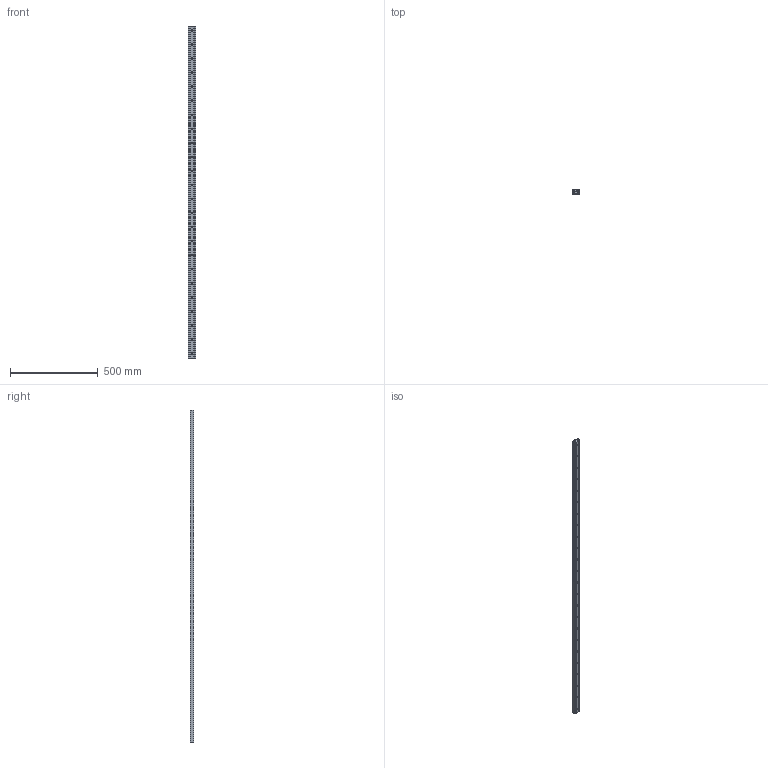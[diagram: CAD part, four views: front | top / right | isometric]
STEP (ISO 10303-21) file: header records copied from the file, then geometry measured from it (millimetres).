
FILE_DESCRIPTION(('STEP AP214'),'1');
FILE_NAME('rail_asn43-1890_00.stp','2017-06-06T10:15:39',('TraceParts'),('TraceParts S.A.'),'Spatial InterOp 3D',' ',' ');
FILE_SCHEMA(('automotive_design'));
Length unit declared in the file: millimetre
Products named in the file (2): rail_asn43-1890_00_1; rail_asn43-1890_00_2
Bounding box: 43 x 22.01 x 1890 mm (x, y, z)
Volume: 1150302.5 mm3; surface area: 444359.9 mm2
Topology: 2 solids, 2 shells, 317 faces, 780 edges, 472 vertices
Faces by surface type: cone 144, cylinder 127, plane 46
Entity records: 9582 total; most frequent: DIRECTION 1816, CARTESIAN_POINT 1571, ORIENTED_EDGE 1560, EDGE_CURVE 780, AXIS2_PLACEMENT_3D 717, VERTEX_POINT 472, EDGE_LOOP 418, CIRCLE 398
